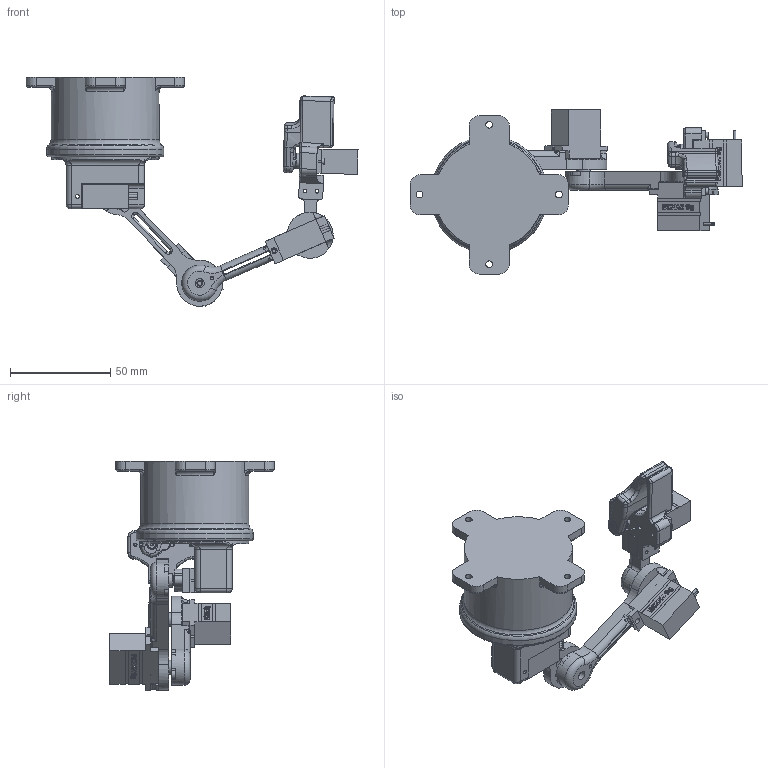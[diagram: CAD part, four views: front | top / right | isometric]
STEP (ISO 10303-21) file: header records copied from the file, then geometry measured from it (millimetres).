
FILE_DESCRIPTION(/* description */ ('','CAx-IF Rec.Pracs.---Representation and Presentation of Product Manufacturing Information (PMI)---4.0---2014-10-13'),/* implementation_level */ '2;1');
FILE_NAME(/* name */ 'assieme_robot_mini_RCXAZ_9g_centrale.stp',/* time_stamp */ '2026-04-21T08:14:55+02:00',/* author */ ('R5800u'),/* organization */ (''),/* preprocessor_version */ 'ST-DEVELOPER v20',/* originating_system */ 'Autodesk Inventor 2025',/* authorisation */ '');
FILE_SCHEMA (('AP242_MANAGED_MODEL_BASED_3D_ENGINEERING_MIM_LF { 1 0 10303 442 1 1 4 }'));
Length unit declared in the file: millimetre
Products named in the file (15): braccio_robot_mini_RCXAZ_9g_v2; base_cilindro; base; braccio_RCXAZ_9g_v2; braccio_RCXAZ_9g_v2_1; braccio_1; MG90S ARM doppio; braccio_3; Assieme_blocco_pinza; blocco_pinza_eco_orizzontale_b; dito_pinza_mg90s; ANSI B18.3.1M - M1,6x0,35 x 8, FSHCSM; MG90_ldb_v2; RCXAZ_9g singolo; Vite a testa cilindrica incassata esalobulare ISO 14580 - M2x8-4.8
Assembly tree (23 placements, depth 3):
  braccio_robot_mini_RCXAZ_9g_v2
    base_cilindro
    MG90_ldb_v2  x2
    MG90S ARM doppio  x2
    base
    braccio_RCXAZ_9g_v2
      MG90_ldb_v2
      braccio_1
      MG90S ARM doppio
    braccio_RCXAZ_9g_v2_1
      MG90_ldb_v2
      braccio_1
      MG90S ARM doppio
    braccio_3
    Assieme_blocco_pinza
      blocco_pinza_eco_orizzontale_b
      dito_pinza_mg90s
      ANSI B18.3.1M - M1,6x0,35 x 8, FSHCSM  x2
      MG90_ldb_v2
      RCXAZ_9g singolo
      Vite a testa cilindrica incassata esalobulare ISO 14580 - M2x8-4.8
Bounding box: 165.59 x 82.05 x 114.5 mm (x, y, z)
Volume: 112661.5 mm3; surface area: 64372.6 mm2
Topology: 25 solids, 25 shells, 3036 faces, 8418 edges, 5508 vertices
Faces by surface type: plane 1832, cylinder 744, bspline 355, torus 87, cone 10, sphere 8
Full cylindrical faces by diameter (mm): 1.167 x15, 1.2 x17, 1.6 x2, 1.8 x12, 1.9 x4, 2 x4, 2.2 x10, 2.7 x1, 2.9 x4, 3 x2, 3.4 x4, 4.5 x2, 4.75 x5, 5 x6, 5.5 x5, 6 x1, 6.8 x4, 7.4 x1, 50 x1, 54 x2, 54.4 x1, 58.4 x1
Entity records: 51682 total; most frequent: CARTESIAN_POINT 14125, DIRECTION 7215, ORIENTED_EDGE 5932, EDGE_CURVE 2966, STYLED_ITEM 2802, AXIS2_PLACEMENT_3D 2691, VERTEX_POINT 1908, LINE 1833
